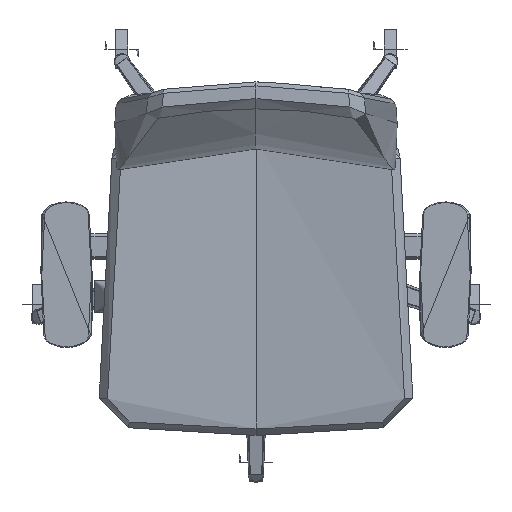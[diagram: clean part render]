
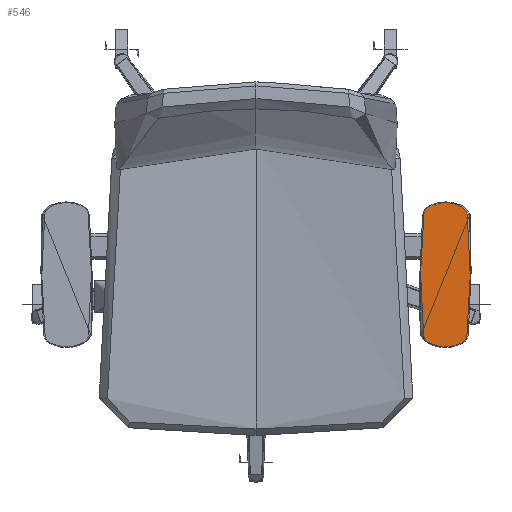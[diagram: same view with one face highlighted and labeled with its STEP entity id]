
A CAD part, top view. The second image highlights one B-rep face of the part: STEP entity #546.
In plain terms, the highlighted planar face has unit normal (0, 0, 1).
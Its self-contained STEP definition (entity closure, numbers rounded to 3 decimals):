
#75=PLANE('',#7064);
#546=ADVANCED_FACE('',(#994),#75,.T.);
#994=FACE_OUTER_BOUND('',#1442,.T.);
#1442=EDGE_LOOP('',(#2561,#2562));
#2561=ORIENTED_EDGE('',*,*,#4201,.T.);
#2562=ORIENTED_EDGE('',*,*,#4208,.T.);
#4201=EDGE_CURVE('',#6267,#6271,#5038,.T.);
#4208=EDGE_CURVE('',#6271,#6267,#5045,.T.);
#5038=(
BOUNDED_CURVE()
B_SPLINE_CURVE(3,(#21188,#21189,#21190,#21191,#21192,#21193,#21194,#21195,
#21196,#21197,#21198,#21199,#21200,#21201),.UNSPECIFIED.,.F.,.F.)
B_SPLINE_CURVE_WITH_KNOTS((4,3,1,3,3,4),(0.,14.236,39.997,
65.759,79.994,259.285),.UNSPECIFIED.)
CURVE()
GEOMETRIC_REPRESENTATION_ITEM()
RATIONAL_B_SPLINE_CURVE((1.,1.,1.,1.,1.,1.,1.,1.,1.,1.,1.,1.,
1.,1.))
REPRESENTATION_ITEM('')
);
#5045=(
BOUNDED_CURVE()
B_SPLINE_CURVE(3,(#21254,#21255,#21256,#21257,#21258,#21259,#21260,#21261,
#21262,#21263,#21264,#21265,#21266,#21267),.UNSPECIFIED.,.F.,.F.)
B_SPLINE_CURVE_WITH_KNOTS((4,3,1,3,3,4),(259.285,273.521,
299.282,325.044,339.28,518.57),
 .UNSPECIFIED.)
CURVE()
GEOMETRIC_REPRESENTATION_ITEM()
RATIONAL_B_SPLINE_CURVE((1.,1.,1.,1.,1.,1.,
1.,1.,1.,1.,1.,1.,1.,1.))
REPRESENTATION_ITEM('')
);
#6267=VERTEX_POINT('',#21131);
#6271=VERTEX_POINT('',#21135);
#7064=AXIS2_PLACEMENT_3D('',#20923,#7307,$);
#7307=DIRECTION('',(0.,0.,1.));
#20923=CARTESIAN_POINT('',(327.081,76.945,662.586));
#21131=CARTESIAN_POINT('',(313.618,46.241,662.586));
#21135=CARTESIAN_POINT('',(248.761,-132.755,662.586));
#21188=CARTESIAN_POINT('',(313.618,46.241,662.586));
#21189=CARTESIAN_POINT('',(313.182,50.983,662.586));
#21190=CARTESIAN_POINT('',(310.205,55.387,662.586));
#21191=CARTESIAN_POINT('',(305.968,57.56,662.586));
#21192=CARTESIAN_POINT('',(298.362,61.548,662.586));
#21193=CARTESIAN_POINT('',(281.19,65.74,662.586));
#21194=CARTESIAN_POINT('',(264.018,61.548,662.586));
#21195=CARTESIAN_POINT('',(256.412,57.56,662.586));
#21196=CARTESIAN_POINT('',(252.174,55.387,662.586));
#21197=CARTESIAN_POINT('',(249.197,50.983,662.586));
#21198=CARTESIAN_POINT('',(248.761,46.241,662.586));
#21199=CARTESIAN_POINT('',(242.826,-13.228,662.586));
#21200=CARTESIAN_POINT('',(242.826,-73.286,662.586));
#21201=CARTESIAN_POINT('',(248.761,-132.755,662.586));
#21254=CARTESIAN_POINT('',(248.761,-132.755,662.586));
#21255=CARTESIAN_POINT('',(249.197,-137.497,662.586));
#21256=CARTESIAN_POINT('',(252.174,-141.901,662.586));
#21257=CARTESIAN_POINT('',(256.412,-144.073,662.586));
#21258=CARTESIAN_POINT('',(264.018,-148.062,662.586));
#21259=CARTESIAN_POINT('',(281.19,-152.254,662.586));
#21260=CARTESIAN_POINT('',(298.362,-148.062,662.586));
#21261=CARTESIAN_POINT('',(305.968,-144.073,662.586));
#21262=CARTESIAN_POINT('',(310.205,-141.901,662.586));
#21263=CARTESIAN_POINT('',(313.182,-137.497,662.586));
#21264=CARTESIAN_POINT('',(313.618,-132.755,662.586));
#21265=CARTESIAN_POINT('',(319.553,-73.286,662.586));
#21266=CARTESIAN_POINT('',(319.553,-13.228,662.586));
#21267=CARTESIAN_POINT('',(313.618,46.241,662.586));
